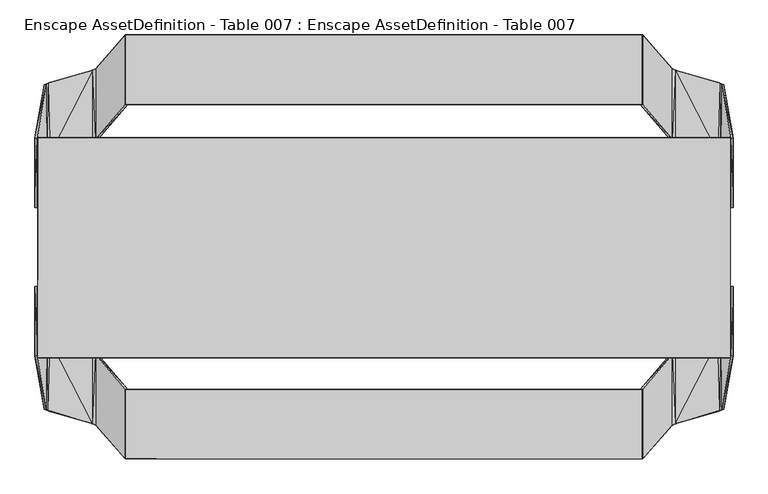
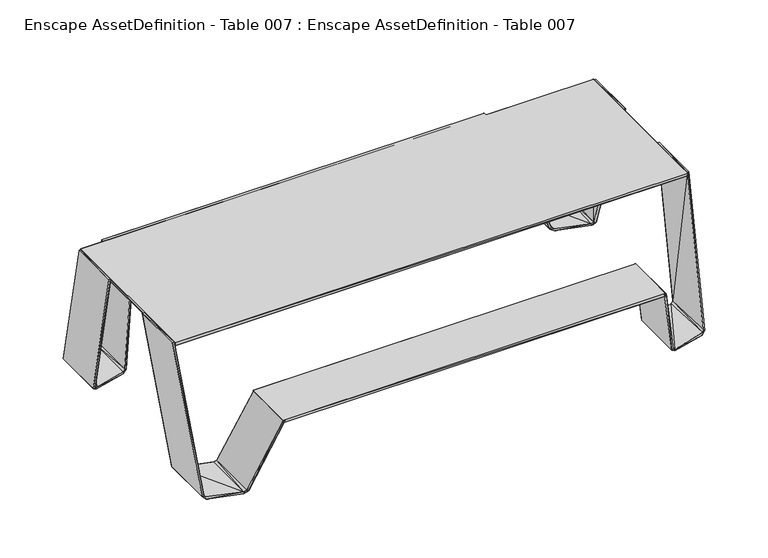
"""IFC4 building model written with IfcOpenShell, lengths in millimetres: geographic element geometry, Enscape AssetDefinition - Table 007 : Enscape AssetDefinition - Table 007."""

from ifc_helpers import new_model, si_unit, origin, place, context, project, spatial, triangles, source, transform, mapped, element, save


def enscape_assetdefinition_table_007_enscape_assetdefinition_4199a16f(model_context):
    return source(origin(), model_context, "Body", "Tessellation", [
        triangles([(-1330.2840626, -418.310804, 748.5550358), (-1293.2819607, -354.8311395, 16.6009126), (-1330.191045, -150.9542034, 748.0149525), (-1339.6887211, -418.7237512, 747.6860481), (-1295.6271664, -623.0467083, 24.0108732), (-1288.7402321, -628.460622, 12.2579341), (-1303.6150509, -624.4446608, 15.3759181), (-1291.8702736, -358.2210852, 3.1539831), (-1285.2153019, -360.9910832, 0.2329988), (-1281.2162727, -360.4571042, 9.9869472), (-1117.4510508, -407.5218186, 10.6819436), (-1285.2153019, -630.8056824, 0.2329988), (-1117.7490704, -678.4553902, 10.4719432), (-1105.8431837, -684.522389, 19.7378963), (-1105.8500874, -413.4397714, 19.6828965), (-1118.0950521, -676.619383, 0.2329988), (-1118.0950521, -406.8038392, 0.2329988), (-1097.9361809, -413.3867949, 13.7369272), (-992.528734, -547.3350869, 440.4476795), (-983.5267399, -546.9101129, 437.602686), (-1097.3361448, -684.8953314, 14.6939216), (-992.7427471, -814.672657, 439.9306689), (-983.4317602, -814.4826977, 437.7886485), (-1339.7388634, -151.1521928, 747.9010059), (-1304.0471466, -352.9271132, 16.4239123), (1304.0471466, -352.9271132, 16.4239123), (1285.2153019, -360.9910832, 0.2329988), (1330.191045, -150.9542034, 748.0149525), (1339.7388634, -151.1521928, 747.9010059), (1339.6887211, -418.7237512, 747.6860481), (1295.6271664, -623.0467083, 24.0108732), (1303.6150509, -624.4446608, 15.3759181), (1288.7402321, -628.460622, 12.2579341), (1118.0950521, -406.8038392, 0.2329988), (1281.2162727, -360.4571042, 9.9869472), (1293.2819607, -354.8311395, 16.6009126), (1285.2153019, -630.8056824, 0.2329988), (1330.2840626, -418.310804, 748.5550358), (1117.7490704, -678.4553902, 10.4719432), (1117.4510508, -407.5218186, 10.6819436), (1097.3361448, -684.8953314, 14.6939216), (1097.9361809, -413.3867949, 13.7369272), (1105.8431837, -684.522389, 19.7378963), (1118.0950521, -676.619383, 0.2329988), (992.7427471, -814.672657, 439.9306689), (1105.8500874, -413.4397714, 19.6828965), (983.5267399, -546.9101129, 437.602686), (983.4317602, -814.4826977, 437.7886485), (992.528734, -547.3350869, 440.4476795), (1339.6887211, 418.6927574, 747.6860481), (1339.7388634, 151.1201998, 747.9010059), (1330.191045, 150.9221923, 748.0149525), (1304.0471466, 352.8951021, 16.4239123), (1291.8702736, 358.1891104, 3.1539831), (1288.7402321, 628.4286472, 12.2579341), (1303.6150509, 624.4137033, 15.3759181), (1285.2153019, 630.7736349, 0.2329988), (1295.6271664, 623.0147335, 24.0108732), (1293.2819607, 354.7991283, 16.6009126), (1330.2840626, 418.2787929, 748.5550358), (1285.2153019, 360.9590721, 0.2329988), (1117.7490704, 678.4234154, 10.4719432), (1281.2162727, 360.4250931, 9.9869472), (1117.4510508, 407.4898438, 10.6819436), (1118.0950521, 676.5874083, 0.2329988), (1118.0950521, 406.7718644, 0.2329988), (983.5267399, 546.8790464, 437.602686), (1105.8500874, 413.4077966, 19.6828965), (1105.8431837, 684.4913589, 19.7378963), (1097.3361448, 684.8633566, 14.6939216), (1097.9361809, 413.3547838, 13.7369272), (992.7427471, 814.6406096, 439.9306689), (983.4317602, 814.4506502, 437.7886485), (992.528734, 547.3030758, 440.4476795), (-1304.0471466, 352.8951021, 16.4239123), (-1339.7388634, 151.1201998, 747.9010059), (-1293.2819607, 354.7991283, 16.6009126), (-1303.6150509, 624.4137033, 15.3759181), (-1339.6887211, 418.6927574, 747.6860481), (-1285.2153019, 360.9590721, 0.2329988), (-1118.0950521, 406.7718644, 0.2329988), (-1281.2162727, 360.4250931, 9.9869472), (-1288.7402321, 628.4286472, 12.2579341), (-1295.6271664, 623.0147335, 24.0108732), (-1330.2840626, 418.2787929, 748.5550358), (-1330.191045, 150.9221923, 748.0149525), (-1117.4510508, 407.4898438, 10.6819436), (-1117.7490704, 678.4234154, 10.4719432), (-1285.2153019, 630.7736349, 0.2329988), (-1118.0950521, 676.5874083, 0.2329988), (-1097.9361809, 413.3547838, 13.7369272), (-1105.8500874, 413.4077966, 19.6828965), (-1105.8431837, 684.4913589, 19.7378963), (-983.5267399, 546.8790464, 437.602686), (-1097.3361448, 684.8633566, 14.6939216), (-983.4317602, 814.4506502, 437.7886485), (-992.7427471, 814.6406096, 439.9306689), (-992.528734, 547.3030758, 440.4476795), (-1328.7129375, 420.6497601, 749.7670258), (1329.3310684, 420.8147573, 749.6089685), (1328.430978, 420.7037539, 734.7581308), (-1328.5019039, 420.8557431, 734.9041248), (1328.6029152, -425.6927299, 732.805125), (1329.168869, -425.5777296, 747.6569801), (-1328.5348961, -425.7307363, 747.5150557), (-1328.6809628, -425.5257342, 732.6511374), (989.3327082, -813.7736567, 427.259749), (989.160771, -546.2850783, 429.2127548), (990.0607161, -546.1741113, 444.0636289), (-992.2787493, -546.1320717, 429.3587125), (-992.4577354, -813.6057163, 427.105725), (-992.4897829, -546.3391085, 444.2216497), (989.899752, -813.6576754, 442.1116405), (-992.3127588, -813.8117357, 441.9696433), (989.160771, 814.5196867, 429.2127548), (-992.2787493, 814.672657, 429.3587125), (989.899752, 547.1470897, 442.1116405), (-992.4897829, 814.4656929, 444.2216497), (990.0607161, 814.6316711, 444.0636289), (989.3327082, 547.0311084, 427.259749), (-992.4577354, 547.199085, 427.105725), (-992.3127588, 546.9930656, 441.9696433)], [[122, 121, 120], [120, 117, 122], [118, 122, 117], [121, 122, 118], [118, 116, 121], [121, 116, 115], [115, 120, 121], [119, 117, 120], [116, 118, 119], [117, 119, 118], [120, 115, 119], [119, 115, 116], [114, 111, 107], [107, 113, 114], [112, 114, 113], [111, 114, 112], [112, 110, 111], [111, 110, 108], [108, 107, 111], [109, 113, 107], [110, 112, 109], [113, 109, 112], [107, 108, 109], [109, 108, 110], [105, 106, 103], [103, 104, 105], [99, 105, 104], [106, 105, 99], [99, 102, 106], [106, 102, 101], [101, 103, 106], [100, 104, 103], [102, 99, 100], [104, 100, 99], [103, 101, 100], [100, 101, 102], [98, 94, 96], [96, 97, 98], [95, 96, 94], [97, 96, 95], [94, 91, 95], [94, 98, 92], [92, 91, 94], [95, 93, 97], [98, 97, 93], [93, 92, 98], [93, 95, 90], [90, 95, 91], [91, 81, 90], [87, 81, 91], [91, 92, 87], [92, 93, 88], [88, 90, 89], [90, 88, 93], [88, 87, 92], [85, 86, 77], [77, 84, 85], [89, 83, 88], [77, 83, 84], [81, 87, 82], [77, 82, 83], [88, 83, 82], [82, 87, 88], [82, 80, 81], [80, 82, 77], [78, 89, 80], [83, 89, 78], [78, 84, 83], [84, 79, 85], [79, 84, 78], [76, 86, 85], [85, 79, 76], [75, 77, 86], [77, 75, 80], [86, 76, 75], [80, 75, 78], [79, 78, 75], [75, 76, 79], [74, 72, 73], [73, 67, 74], [67, 73, 70], [70, 73, 72], [70, 71, 67], [72, 69, 70], [69, 72, 74], [74, 67, 68], [67, 71, 68], [74, 68, 69], [64, 68, 71], [71, 66, 64], [65, 66, 71], [65, 70, 69], [71, 70, 65], [62, 69, 68], [69, 62, 65], [68, 64, 62], [63, 64, 66], [66, 61, 63], [62, 64, 63], [63, 55, 62], [62, 55, 57], [57, 65, 62], [54, 61, 57], [55, 63, 59], [59, 63, 61], [61, 54, 59], [59, 52, 60], [58, 55, 59], [60, 58, 59], [56, 57, 55], [57, 56, 54], [55, 58, 56], [52, 59, 53], [53, 59, 54], [56, 53, 54], [60, 52, 51], [53, 51, 52], [56, 58, 50], [60, 50, 58], [51, 50, 60], [53, 56, 50], [50, 51, 53], [49, 47, 48], [48, 45, 49], [41, 48, 47], [45, 48, 41], [47, 42, 41], [47, 49, 46], [46, 42, 47], [41, 43, 45], [49, 45, 43], [43, 46, 49], [43, 41, 44], [44, 41, 42], [42, 34, 44], [40, 34, 42], [42, 46, 40], [46, 43, 39], [39, 44, 37], [44, 39, 43], [39, 40, 46], [38, 28, 36], [36, 31, 38], [37, 33, 39], [36, 33, 31], [34, 40, 35], [36, 35, 33], [39, 33, 35], [35, 40, 39], [35, 27, 34], [27, 35, 36], [32, 37, 27], [33, 37, 32], [32, 31, 33], [30, 31, 32], [31, 30, 38], [29, 28, 38], [38, 30, 29], [26, 36, 28], [36, 26, 27], [28, 29, 26], [27, 26, 32], [30, 32, 26], [26, 29, 30], [4, 24, 25], [23, 20, 19], [19, 22, 23], [20, 23, 21], [21, 23, 22], [21, 18, 20], [19, 20, 15], [20, 18, 15], [22, 14, 21], [14, 22, 19], [19, 15, 14], [16, 21, 14], [18, 21, 16], [16, 17, 18], [18, 17, 11], [11, 15, 18], [13, 14, 15], [12, 16, 13], [14, 13, 16], [15, 11, 13], [10, 11, 17], [13, 11, 10], [17, 9, 10], [8, 9, 12], [8, 12, 7], [7, 25, 8], [25, 7, 4], [13, 6, 12], [7, 12, 6], [10, 6, 13], [7, 5, 4], [6, 5, 7], [1, 4, 5], [24, 4, 1], [1, 3, 24], [25, 24, 3], [3, 2, 25], [25, 2, 8], [6, 10, 2], [2, 10, 9], [5, 6, 2], [9, 8, 2], [1, 5, 2], [2, 3, 1]], closed=False),
    ])


if __name__ == "__main__":
    model = new_model("IFC4")
    model_context = context("Model", 3, world=origin())
    ifc_project = project(units=[si_unit("LENGTHUNIT", "METRE", prefix="MILLI")], contexts=[model_context])
    site = spatial("IfcSite", under=ifc_project)
    building = spatial("IfcBuilding", under=site)
    placement = place(None, origin())
    enscape_assetdefinition_table_007_enscape_assetdefinition_shape = enscape_assetdefinition_table_007_enscape_assetdefinition_4199a16f(model_context)
    element("IfcGeographicElement", 1, ObjectType="Enscape AssetDefinition - Table 007 : Enscape AssetDefinition - Table 007", at=placement, inside=building, context=model_context, shape_type="MappedRepresentation", body=[
        mapped(enscape_assetdefinition_table_007_enscape_assetdefinition_shape, transform((0.0, 0.0, 0.0), x_axis=(1.0, 0.0, 0.0), y_axis=(0.0, 1.0, 0.0), z_axis=(0.0, 0.0, 1.0))),
    ])
    save(model, "model.ifc")
